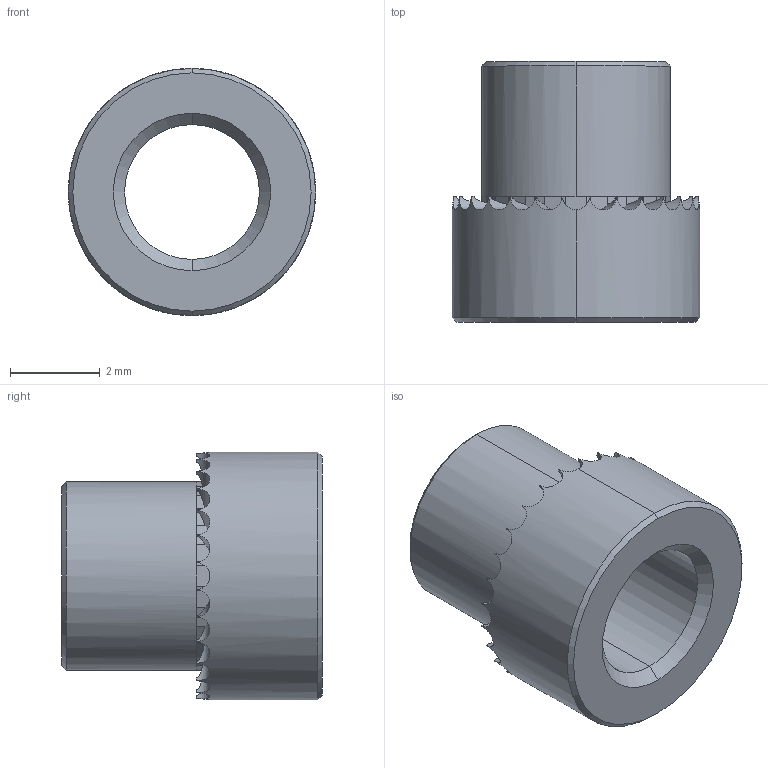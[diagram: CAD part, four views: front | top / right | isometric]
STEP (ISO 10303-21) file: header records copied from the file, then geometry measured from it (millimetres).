
FILE_DESCRIPTION (( 'STEP AP203' ), '1' );
FILE_NAME ('P0829.030-12G-ZP.step', '2019-03-21T22:13:49', ( '' ), ( '' ), 'SwSTEP 2.0', 'SolidWorks 2017', '' );
FILE_SCHEMA (( 'CONFIG_CONTROL_DESIGN' ));
Length unit declared in the file: millimetre
Products named in the file (1): P0829.030-12G-ZP
Bounding box: 5.5 x 5.8 x 5.5 mm (x, y, z)
Volume: 63.6 mm3; surface area: 174 mm2
Topology: 1 solids, 1 shells, 128 faces, 312 edges, 186 vertices
Faces by surface type: plane 86, cylinder 34, cone 8
Entity records: 3963 total; most frequent: CARTESIAN_POINT 965, ORIENTED_EDGE 624, DIRECTION 612, EDGE_CURVE 312, AXIS2_PLACEMENT_3D 229, VERTEX_POINT 186, VECTOR 154, LINE 154
